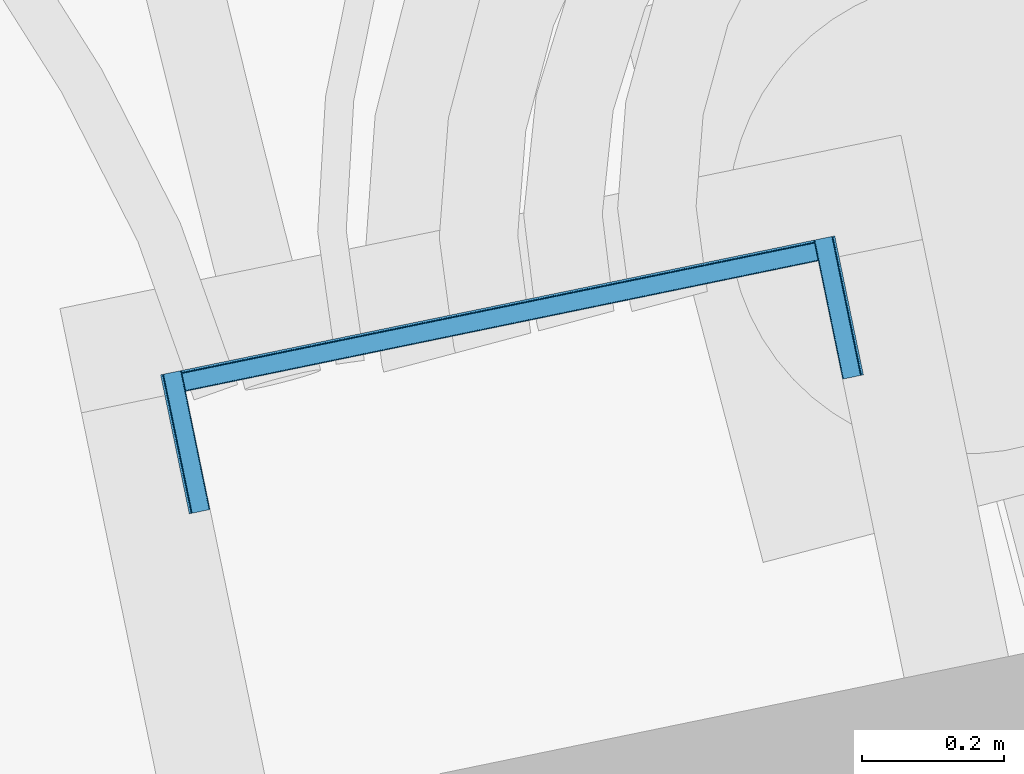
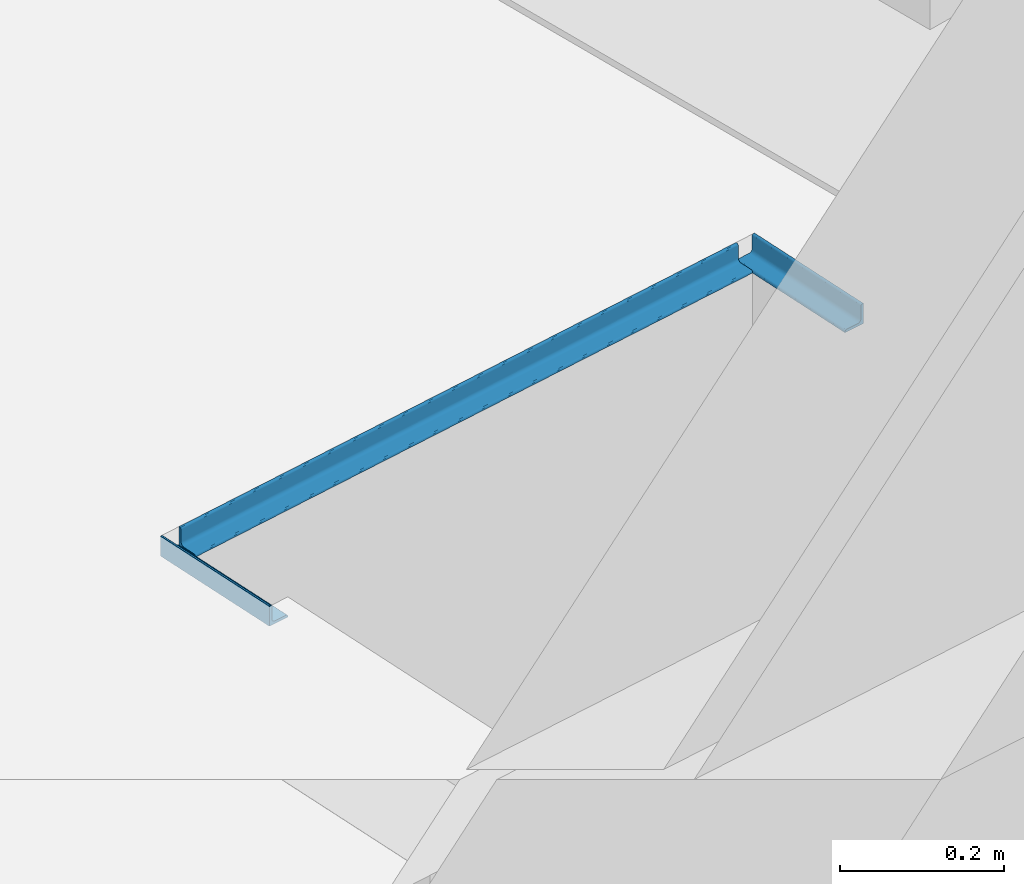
# One storey, part 2 of 29: 3 beams.
"""IFC2X3 building model written with IfcOpenShell, lengths in centimetres."""

from ifc_helpers import new_model, entity, si_unit, converted_unit, derived_unit, direction, frame, frame_2d, origin, place, context, subcontext, project, spatial, polyline, circle_curve, parameter, trimmed, segment, composite_curve, outline, extrude, material, type_object, element, save


model = new_model("IFC2X3")

# Units and contexts
model_context = context("Model", 3, precision=0.001, world=origin(), true_north=direction((6.12303176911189e-17, 1.0)))
body_context = subcontext(model_context, "Body", "Model", "MODEL_VIEW")
ifc_project = project(units=[si_unit("LENGTHUNIT", "METRE", prefix="CENTI"), si_unit("AREAUNIT", "SQUARE_METRE"), si_unit("VOLUMEUNIT", "CUBIC_METRE"), converted_unit("PLANEANGLEUNIT", "DEGREE", entity("IfcRatioMeasure", 0.0174532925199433), si_unit("PLANEANGLEUNIT", "RADIAN"), dimensions=[0, 0, 0, 0, 0, 0, 0]), si_unit("MASSUNIT", "GRAM", prefix="KILO"), derived_unit("MASSDENSITYUNIT", [(si_unit("MASSUNIT", "GRAM", prefix="KILO"), 1), (si_unit("LENGTHUNIT", "METRE"), -3)]), si_unit("TIMEUNIT", "SECOND"), si_unit("FREQUENCYUNIT", "HERTZ"), si_unit("THERMODYNAMICTEMPERATUREUNIT", "DEGREE_CELSIUS"), derived_unit("THERMALTRANSMITTANCEUNIT", [(si_unit("MASSUNIT", "GRAM", prefix="KILO"), 1), (si_unit("THERMODYNAMICTEMPERATUREUNIT", "KELVIN"), -1), (si_unit("TIMEUNIT", "SECOND"), -3)]), derived_unit("VOLUMETRICFLOWRATEUNIT", [(si_unit("LENGTHUNIT", "METRE"), 3), (si_unit("TIMEUNIT", "SECOND"), -1)]), si_unit("ELECTRICCURRENTUNIT", "AMPERE"), si_unit("ELECTRICVOLTAGEUNIT", "VOLT"), si_unit("POWERUNIT", "WATT"), si_unit("FORCEUNIT", "NEWTON"), si_unit("ILLUMINANCEUNIT", "LUX"), si_unit("LUMINOUSFLUXUNIT", "LUMEN"), si_unit("LUMINOUSINTENSITYUNIT", "CANDELA"), derived_unit("USERDEFINED", [(si_unit("MASSUNIT", "GRAM", prefix="KILO"), -1), (si_unit("LENGTHUNIT", "METRE"), -2), (si_unit("TIMEUNIT", "SECOND"), 3), (si_unit("LUMINOUSFLUXUNIT", "LUMEN"), 1)]), derived_unit("LINEARVELOCITYUNIT", [(si_unit("LENGTHUNIT", "METRE"), 1), (si_unit("TIMEUNIT", "SECOND"), -1)]), si_unit("PRESSUREUNIT", "PASCAL"), derived_unit("USERDEFINED", [(si_unit("LENGTHUNIT", "METRE"), -2), (si_unit("MASSUNIT", "GRAM", prefix="KILO"), 1), (si_unit("TIMEUNIT", "SECOND"), -2)])], contexts=[model_context])

# Site, building, storey
site_placement = place(None, origin())
site = spatial("IfcSite", under=ifc_project, at=site_placement, Name="Default", CompositionType="ELEMENT")
building_placement = place(site_placement, origin())
building = spatial("IfcBuilding", under=site, at=building_placement, Name="CAGE 03", CompositionType="ELEMENT")
storey_placement = place(building_placement, frame((0.0, 0.0, -34.0)))
storey = spatial("IfcBuildingStorey", under=building, at=storey_placement, Name="+3.66", CompositionType="ELEMENT", Elevation=-34.0000000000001)

# Beams
ifc_material = material(Name="Acier structurel - S235")
beam_type = type_object("IfcBeamType", Name="Cornière à ailes égales:L30x4", PredefinedType="BEAM")
beam_1_placement = place(storey_placement, frame((11650.9016684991, 3558.82755185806, 0.0), z_axis=(0.0, 0.0, 1.0), x_axis=(-0.97941414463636, -0.201861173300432, 0.0)))
element("IfcBeam", 1, at=beam_1_placement, inside=storey, type_object=beam_type, material=ifc_material, Name="Cornière à ailes égales:L30x4", ObjectType="Cornière à ailes égales:L30x4", context=body_context, shape_type="SweptSolid", body=[
    extrude(outline(composite_curve([segment(polyline([(-1.82222222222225, -1.17777777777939), (1.17777777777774, -1.17777777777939)]), True, "CONTINUOUS"), segment(polyline([(1.17777777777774, -1.17777777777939), (1.17777777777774, 1.82222222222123)]), True, "CONTINUOUS"), segment(polyline([(1.17777777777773, 1.8222222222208), (1.0277777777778, 1.8222222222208)]), True, "CONTINUOUS"), segment(trimmed(circle_curve(frame_2d((1.02777777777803, 1.57222222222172), x_axis=(0.0, 1.0)), 0.250000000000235), [parameter(0.0)], [parameter(89.9999999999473)], True, "PARAMETER"), True, "CONTINUOUS"), segment(polyline([(0.777777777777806, 1.57222222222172), (0.777777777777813, -0.277777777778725)]), True, "CONTINUOUS"), segment(trimmed(circle_curve(frame_2d((0.277777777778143, -0.277777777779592), x_axis=(1.0, 0.0)), 0.499999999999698), [parameter(269.999999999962)], [parameter(0.0)], True, "PARAMETER"), False, "CONTINUOUS"), segment(polyline([(0.277777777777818, -0.777777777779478), (-1.57222222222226, -0.777777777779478)]), True, "CONTINUOUS"), segment(trimmed(circle_curve(frame_2d((-1.57222222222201, -1.02777777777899), x_axis=(0.0, 1.0)), 0.25000000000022), [parameter(0.0)], [parameter(89.9999999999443)], True, "PARAMETER"), True, "CONTINUOUS"), segment(polyline([(-1.82222222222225, -1.02777777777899), (-1.82222222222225, -1.17777777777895)]), True, "CONTINUOUS")], self_intersect=False)), frame((7.49999999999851, 0.299777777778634, -1.82222222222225), z_axis=(1.0, 0.0, 0.0), x_axis=(0.0, 0.0, -1.0)), (0.0, 0.0, 1.0), 91.000000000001),
])
beam_2_placement = place(storey_placement, frame((11556.2110477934, 3519.78751960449, 0.0), z_axis=(0.0, 0.0, 1.0), x_axis=(-0.201861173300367, 0.979414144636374, 0.0)))
element("IfcBeam", 2, at=beam_2_placement, inside=storey, type_object=beam_type, material=ifc_material, Name="Cornière à ailes égales:L30x4", ObjectType="Cornière à ailes égales:L30x4", context=body_context, shape_type="SweptSolid", body=[
    extrude(outline(composite_curve([segment(polyline([(1.02777777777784, -1.82222222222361), (1.17777777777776, -1.82222222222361)]), True, "CONTINUOUS"), segment(polyline([(1.17777777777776, -1.82222222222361), (1.17777777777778, 1.17777777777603)]), True, "CONTINUOUS"), segment(polyline([(1.17777777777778, 1.17777777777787), (-1.82222222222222, 1.17777777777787)]), True, "CONTINUOUS"), segment(polyline([(-1.82222222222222, 1.17777777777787), (-1.82222222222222, 1.02777777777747)]), True, "CONTINUOUS"), segment(trimmed(circle_curve(frame_2d((-1.57222222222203, 1.02777777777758), x_axis=(-1.0, 0.0)), 0.250000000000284), [parameter(0.0)], [parameter(89.9999999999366)], True, "PARAMETER"), True, "CONTINUOUS"), segment(polyline([(-1.57222222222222, 0.777777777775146), (0.277777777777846, 0.777777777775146)]), True, "CONTINUOUS"), segment(trimmed(circle_curve(frame_2d((0.277777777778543, 0.277777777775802), x_axis=(0.0, 1.0)), 0.49999999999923), [parameter(269.99999999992)], [parameter(0.0)], True, "PARAMETER"), False, "CONTINUOUS"), segment(polyline([(0.777777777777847, 0.277777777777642), (0.777777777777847, -1.57222222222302)]), True, "CONTINUOUS"), segment(trimmed(circle_curve(frame_2d((1.02777777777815, -1.57222222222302), x_axis=(-1.0, 0.0)), 0.250000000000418), [parameter(0.0)], [parameter(89.9999999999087)], True, "PARAMETER"), True, "CONTINUOUS")], self_intersect=False)), frame((0.0, -0.299777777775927, -1.82222222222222), z_axis=(1.0, 0.0, 0.0), x_axis=(0.0, 0.0, -1.0)), (0.0, 0.0, 1.0), 20.0000000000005),
])
beam_3_placement = place(storey_placement, frame((11649.4943685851, 3539.01358519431, 0.0), z_axis=(0.0, 0.0, 1.0), x_axis=(-0.201861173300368, 0.979414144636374, 0.0)))
element("IfcBeam", 3, at=beam_3_placement, inside=storey, type_object=beam_type, material=ifc_material, Name="Cornière à ailes égales:L30x4", ObjectType="Cornière à ailes égales:L30x4", context=body_context, shape_type="SweptSolid", body=[
    extrude(outline(composite_curve([segment(polyline([(-1.82222222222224, -1.17777777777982), (1.17777777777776, -1.17777777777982)]), True, "CONTINUOUS"), segment(polyline([(1.17777777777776, -1.17777777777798), (1.17777777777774, 1.82222222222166)]), True, "CONTINUOUS"), segment(polyline([(1.17777777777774, 1.82222222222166), (1.02777777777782, 1.82222222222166)]), True, "CONTINUOUS"), segment(trimmed(circle_curve(frame_2d((1.02777777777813, 1.57222222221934), x_axis=(0.0, 1.0)), 0.250000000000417), [parameter(0.0)], [parameter(89.9999999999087)], True, "PARAMETER"), True, "CONTINUOUS"), segment(polyline([(0.777777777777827, 1.57222222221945), (0.777777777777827, -0.277777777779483)]), True, "CONTINUOUS"), segment(trimmed(circle_curve(frame_2d((0.277777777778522, -0.277777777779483), x_axis=(1.0, 0.0)), 0.49999999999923), [parameter(269.99999999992)], [parameter(0.0)], True, "PARAMETER"), False, "CONTINUOUS"), segment(polyline([(0.277777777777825, -0.777777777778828), (-1.57222222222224, -0.777777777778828)]), True, "CONTINUOUS"), segment(trimmed(circle_curve(frame_2d((-1.57222222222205, -1.02777777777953), x_axis=(0.0, 1.0)), 0.250000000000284), [parameter(0.0)], [parameter(89.9999999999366)], True, "PARAMETER"), True, "CONTINUOUS"), segment(polyline([(-1.82222222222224, -1.02777777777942), (-1.82222222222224, -1.17777777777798)]), True, "CONTINUOUS")], self_intersect=False)), frame((0.0, 0.299777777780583, -1.82222222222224), z_axis=(1.0, 0.0, 0.0), x_axis=(0.0, 0.0, -1.0)), (0.0, 0.0, 1.0), 20.0000000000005),
])

save(model, "model.ifc")
